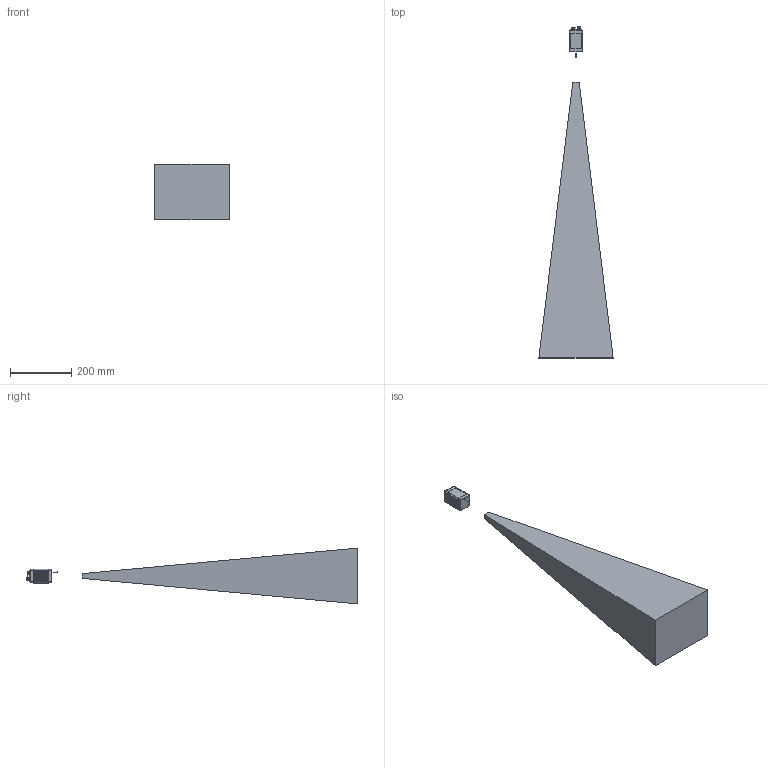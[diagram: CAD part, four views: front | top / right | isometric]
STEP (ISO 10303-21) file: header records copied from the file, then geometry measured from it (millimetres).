
FILE_DESCRIPTION(/* description */ (''),/* implementation_level */ '2;1');
FILE_NAME(/* name */ 'VISOR V20 XE-Narrow.stp',/* time_stamp */ '2024-03-13T07:48:28+01:00',/* author */ ('SensoPart'),/* organization */ ('SensoPart'),/* preprocessor_version */ 'ST-DEVELOPER v19.2',/* originating_system */ 'Autodesk Inventor 2023',/* authorisation */ '');
FILE_SCHEMA (('AUTOMOTIVE_DESIGN { 1 0 10303 214 3 1 1 }'));
Length unit declared in the file: millimetre
Products named in the file (1): GH-ENG-0044894_Vereinfachen_1
Bounding box: 242.5 x 1084.35 x 182.3 mm (x, y, z)
Volume: 14653056.2 mm3; surface area: 485733.8 mm2
Topology: 3 solids, 3 shells, 1051 faces, 2872 edges, 1930 vertices
Faces by surface type: plane 612, bspline 259, cylinder 147, cone 29, sphere 4
Full cylindrical faces by diameter (mm): 0.6 x12, 1 x1, 1.05 x8, 1.1 x2, 8.3 x1, 9.45 x1, 9.6 x1, 10.9 x1, 10.95 x2, 12 x2, 18 x3
Entity records: 43214 total; most frequent: CARTESIAN_POINT 17325, ORIENTED_EDGE 5742, DIRECTION 4042, EDGE_CURVE 2871, VERTEX_POINT 1929, LINE 1776, VECTOR 1776, EDGE_LOOP 1168
